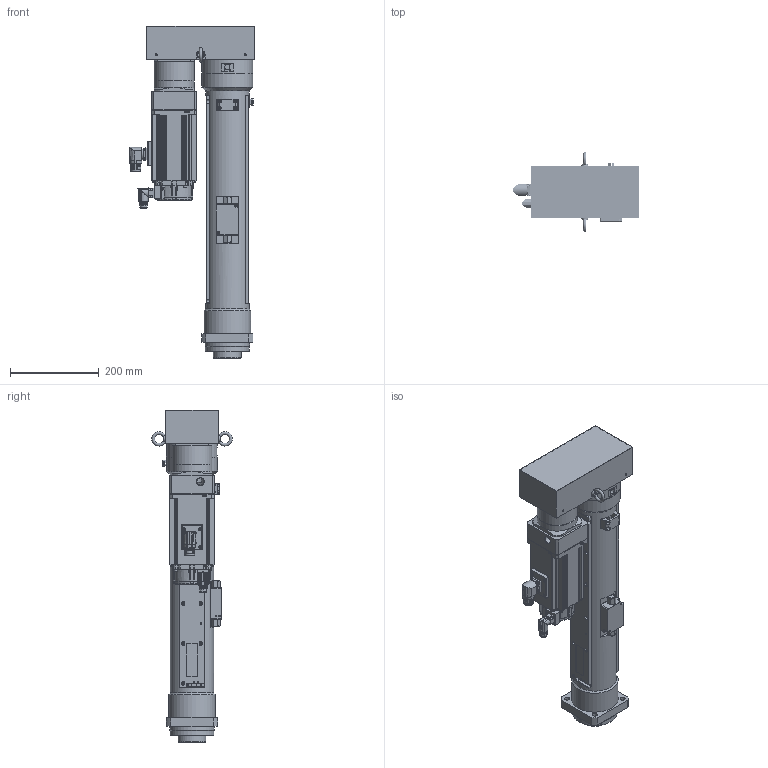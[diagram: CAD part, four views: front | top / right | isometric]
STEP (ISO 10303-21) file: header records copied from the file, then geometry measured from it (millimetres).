
FILE_DESCRIPTION( ('This file contains a STEP AP42 implementation' ,'as created by ZW3D STEP Interface translator.') ,'2;1' );
FILE_NAME( 'P015-400-290-A6V400_ASM_20.51.stp' ,'26 414.154527', (''), ('ZWCAD Software Co.'), 'Version 1.0', 'ZW3D to STEP translator', '' );
FILE_SCHEMA(('AUTOMOTIVE_DESIGN { 1 0 10303 214 1 1 1 1 }'));
Length unit declared in the file: millimetre
Products named in the file (1): 0
Bounding box: 283.2 x 180.9 x 748 mm (x, y, z)
Volume: 7811210.7 mm3; surface area: 1346288.1 mm2
Topology: 46 solids, 46 shells, 2363 faces, 6095 edges, 4067 vertices
Faces by surface type: plane 1037, cylinder 910, cone 251, torus 87, bspline 58, sphere 20
Full cylindrical faces by diameter (mm): 1.25 x12, 1.6 x8, 2.232 x6, 2.459 x5, 2.75 x4, 2.8 x1, 3.2 x5, 3.3 x89, 4.2 x4, 4.3 x32, 4.5 x4, 5 x34, 5.5 x9, 6 x8, 6.5 x4, 6.6 x14, 6.647 x5, 6.8 x36, 7 x12, 8 x47, 8.4 x8, 8.5 x17, 9 x4, 11 x12, 12 x1, 13.4 x1, 15 x8, 15.5 x2, 15.54 x1, 16 x1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
Entity records: 82126 total; most frequent: CARTESIAN_POINT 18657, DIRECTION 13010, ORIENTED_EDGE 11974, EDGE_CURVE 5987, AXIS2_PLACEMENT_3D 4967, VERTEX_POINT 3999, VECTOR 3076, LINE 3076
